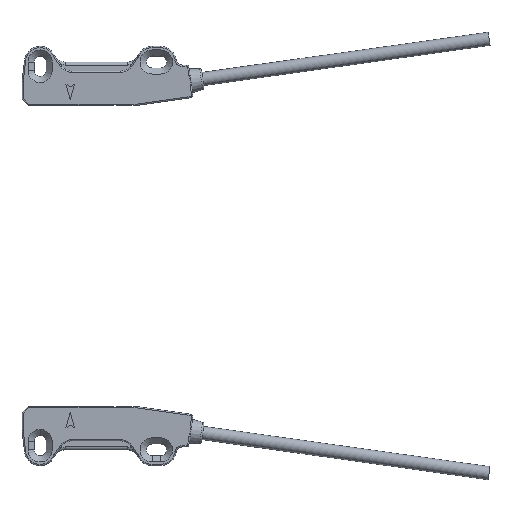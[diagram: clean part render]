
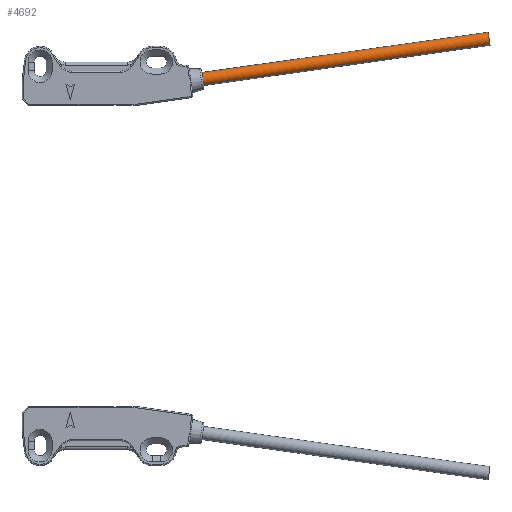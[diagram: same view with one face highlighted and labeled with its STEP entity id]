
A CAD part, top view. The second image highlights one B-rep face of the part: STEP entity #4692.
In plain terms, the highlighted cylindrical face has radius 1.1 mm (diameter 2.2 mm), a partial arc.
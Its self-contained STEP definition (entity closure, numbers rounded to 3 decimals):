
#219 = DIRECTION ( 'NONE',  ( -0.102, 0.724, -0.682 ) ) ;
#304 = EDGE_LOOP ( 'NONE', ( #4572, #9581, #716, #3452, #10438, #624 ) ) ;
#494 = EDGE_CURVE ( 'NONE', #9604, #1260, #13249, .T. ) ;
#583 = VERTEX_POINT ( 'NONE', #8051 ) ;
#619 = CIRCLE ( 'NONE', #5329, 1.1 ) ;
#624 = ORIENTED_EDGE ( 'NONE', *, *, #11905, .F. ) ;
#716 = ORIENTED_EDGE ( 'NONE', *, *, #10499, .T. ) ;
#1102 = EDGE_CURVE ( 'NONE', #9604, #6494, #12864, .T. ) ;
#1260 = VERTEX_POINT ( 'NONE', #11506 ) ;
#1329 = CYLINDRICAL_SURFACE ( 'NONE', #10598, 1.1 ) ;
#1478 = CIRCLE ( 'NONE', #7938, 1.1 ) ;
#1486 = DIRECTION ( 'NONE',  ( -0.99, -0.139, 0. ) ) ;
#1504 = CARTESIAN_POINT ( 'NONE',  ( 19.875, 4.542, 0. ) ) ;
#1666 = VECTOR ( 'NONE', #1486, 1000. ) ;
#2143 = CARTESIAN_POINT ( 'NONE',  ( 69.653, 9.615, 0.75 ) ) ;
#3452 = ORIENTED_EDGE ( 'NONE', *, *, #4530, .T. ) ;
#3548 = DIRECTION ( 'NONE',  ( -0.102, 0.724, -0.682 ) ) ;
#4128 = DIRECTION ( 'NONE',  ( 0.99, 0.139, 0. ) ) ;
#4530 = EDGE_CURVE ( 'NONE', #8845, #583, #12045, .T. ) ;
#4572 = ORIENTED_EDGE ( 'NONE', *, *, #1102, .F. ) ;
#4692 = ADVANCED_FACE ( 'NONE', ( #8065 ), #1329, .T. ) ;
#4919 = AXIS2_PLACEMENT_3D ( 'NONE', #5719, #13595, #219 ) ;
#5297 = CARTESIAN_POINT ( 'NONE',  ( 20.028, 3.453, 0. ) ) ;
#5329 = AXIS2_PLACEMENT_3D ( 'NONE', #11690, #12799, #9440 ) ;
#5530 = CARTESIAN_POINT ( 'NONE',  ( 69.653, 9.615, 0.75 ) ) ;
#5719 = CARTESIAN_POINT ( 'NONE',  ( 69.541, 10.412, 0. ) ) ;
#5976 = CARTESIAN_POINT ( 'NONE',  ( 20.14, 2.656, 0.75 ) ) ;
#6137 = CARTESIAN_POINT ( 'NONE',  ( 69.541, 10.412, 0. ) ) ;
#6494 = VERTEX_POINT ( 'NONE', #2143 ) ;
#7030 = CARTESIAN_POINT ( 'NONE',  ( 69.429, 11.209, -0.75 ) ) ;
#7938 = AXIS2_PLACEMENT_3D ( 'NONE', #9050, #11085, #3548 ) ;
#8051 = CARTESIAN_POINT ( 'NONE',  ( 19.875, 4.542, 0.01 ) ) ;
#8058 = DIRECTION ( 'NONE',  ( 0.102, -0.724, 0.682 ) ) ;
#8065 = FACE_OUTER_BOUND ( 'NONE', #304, .T. ) ;
#8662 = AXIS2_PLACEMENT_3D ( 'NONE', #5297, #4128, #10889 ) ;
#8775 = DIRECTION ( 'NONE',  ( -0.99, -0.139, 0. ) ) ;
#8845 = VERTEX_POINT ( 'NONE', #1504 ) ;
#9050 = CARTESIAN_POINT ( 'NONE',  ( 20.028, 3.453, 0. ) ) ;
#9080 = DIRECTION ( 'NONE',  ( -0.99, -0.139, 0. ) ) ;
#9440 = DIRECTION ( 'NONE',  ( -0.102, 0.724, -0.682 ) ) ;
#9581 = ORIENTED_EDGE ( 'NONE', *, *, #494, .T. ) ;
#9604 = VERTEX_POINT ( 'NONE', #11326 ) ;
#9790 = VERTEX_POINT ( 'NONE', #5976 ) ;
#10075 = LINE ( 'NONE', #5530, #11961 ) ;
#10159 = EDGE_CURVE ( 'NONE', #583, #9790, #619, .T. ) ;
#10438 = ORIENTED_EDGE ( 'NONE', *, *, #10159, .T. ) ;
#10499 = EDGE_CURVE ( 'NONE', #1260, #8845, #1478, .T. ) ;
#10598 = AXIS2_PLACEMENT_3D ( 'NONE', #6137, #9080, #8058 ) ;
#10889 = DIRECTION ( 'NONE',  ( -0.102, 0.724, -0.682 ) ) ;
#11085 = DIRECTION ( 'NONE',  ( 0.99, 0.139, 0. ) ) ;
#11326 = CARTESIAN_POINT ( 'NONE',  ( 69.429, 11.209, -0.75 ) ) ;
#11506 = CARTESIAN_POINT ( 'NONE',  ( 19.916, 4.25, -0.75 ) ) ;
#11690 = CARTESIAN_POINT ( 'NONE',  ( 20.028, 3.453, 0. ) ) ;
#11905 = EDGE_CURVE ( 'NONE', #6494, #9790, #10075, .T. ) ;
#11961 = VECTOR ( 'NONE', #8775, 1000. ) ;
#12045 = CIRCLE ( 'NONE', #8662, 1.1 ) ;
#12799 = DIRECTION ( 'NONE',  ( 0.99, 0.139, 0. ) ) ;
#12864 = CIRCLE ( 'NONE', #4919, 1.1 ) ;
#13249 = LINE ( 'NONE', #7030, #1666 ) ;
#13595 = DIRECTION ( 'NONE',  ( 0.99, 0.139, 0. ) ) ;
